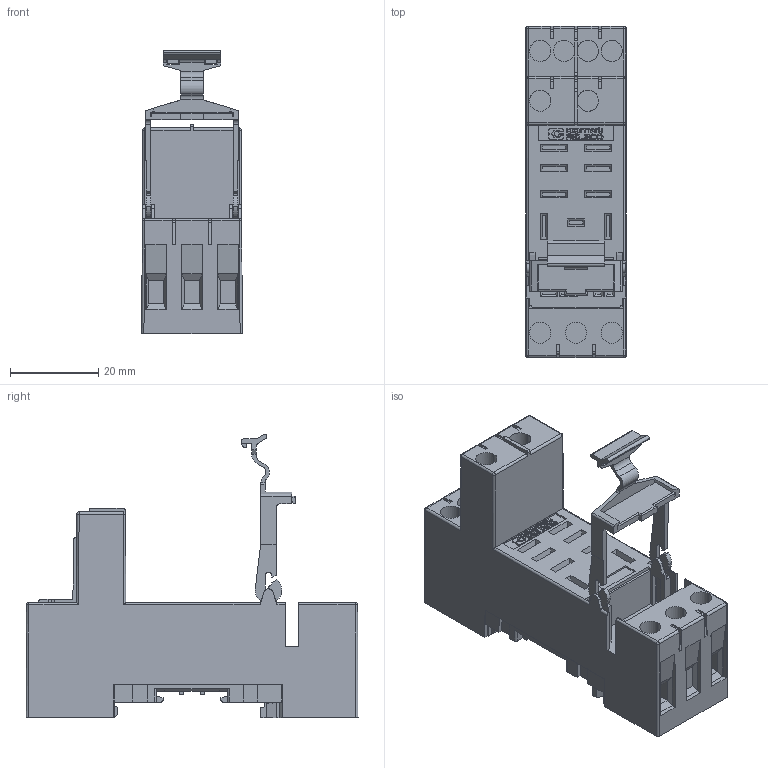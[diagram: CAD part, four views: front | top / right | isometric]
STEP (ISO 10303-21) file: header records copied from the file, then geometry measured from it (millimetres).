
FILE_DESCRIPTION (( 'STEP AP214' ), '1' );
FILE_NAME ('S7-GR.STEP', '2024-04-11T06:22:32', ( '' ), ( '' ), 'SwSTEP 2.0', 'SolidWorks 2022', '' );
FILE_SCHEMA (( 'AUTOMOTIVE_DESIGN' ));
Length unit declared in the file: millimetre
Products named in the file (1): S7-GR
Bounding box: 22.73 x 75.07 x 64.03 mm (x, y, z)
Volume: 40452.4 mm3; surface area: 15778.3 mm2
Topology: 1 solids, 4 shells, 1100 faces, 3053 edges, 1983 vertices
Faces by surface type: plane 889, cylinder 130, bspline 79, sphere 2
Entity records: 38972 total; most frequent: CARTESIAN_POINT 10142, ORIENTED_EDGE 6106, DIRECTION 4836, EDGE_CURVE 3053, VECTOR 2484, LINE 2484, VERTEX_POINT 1983, AXIS2_PLACEMENT_3D 1176
